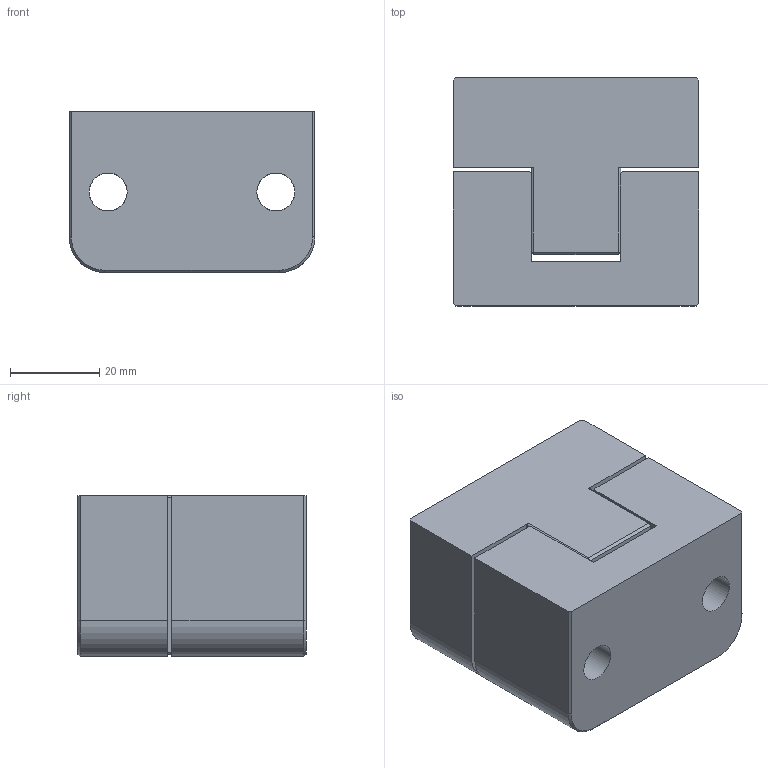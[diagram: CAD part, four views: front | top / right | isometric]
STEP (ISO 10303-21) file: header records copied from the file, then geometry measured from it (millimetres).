
FILE_DESCRIPTION(('CATIA V5 STEP Exchange'),'2;1');
FILE_NAME('C:\Users\Raffaele\Desktop\3D BOLEX\3D FILES CF BOLEX\17-CENTERER REF 505\CL505055.stp','2019-06-20T13:10:18+00:00',('none'),('none'),'CATIA Version 5 Release 20 GA (IN-10)','CATIA V5 STEP AP203','none');
FILE_SCHEMA(('CONFIG_CONTROL_DESIGN'));
Length unit declared in the file: millimetre
Products named in the file (1): CL505055
Assembly tree (2 placements, depth 2):
  CL505055
    #58
    #5427
Bounding box: 55 x 51 x 36 mm (x, y, z)
Volume: 88029.7 mm3; surface area: 23236.4 mm2
Topology: 2 solids, 2 shells, 212 faces, 452 edges, 292 vertices
Faces by surface type: cylinder 120, plane 84, cone 8
Entity records: 6359 total; most frequent: CARTESIAN_POINT 1764, ORIENTED_EDGE 896, DIRECTION 839, EDGE_CURVE 448, AXIS2_PLACEMENT_3D 419, VERTEX_POINT 292, EDGE_LOOP 272, ADVANCED_FACE 212
